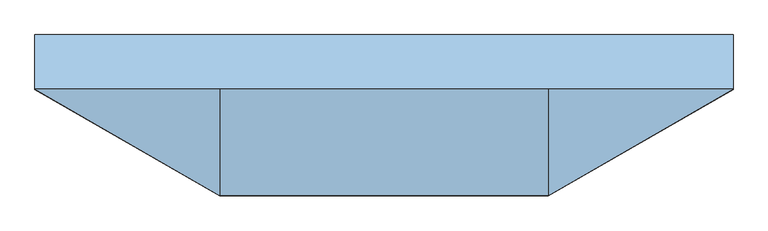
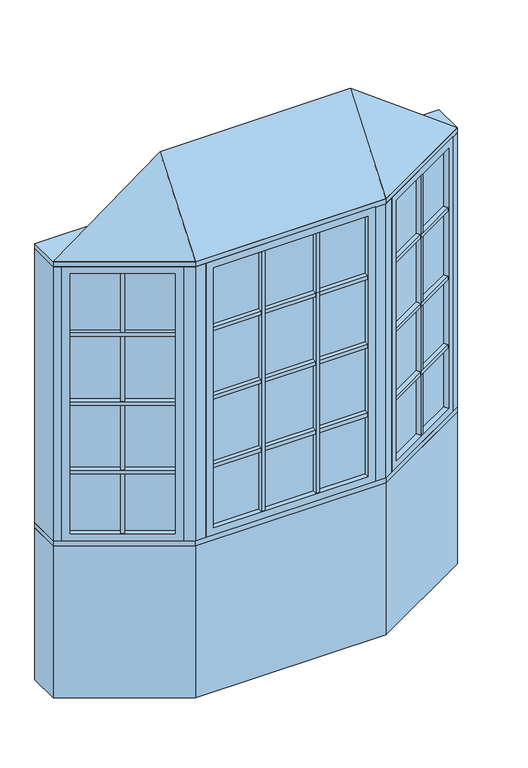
"""IFC4 building model written with IfcOpenShell, lengths in millimetres: window geometry, Pollard_Windows_Tudor Casement Bows and Bays : AML-BAY 30 AFR0614-08-500_GC."""

from ifc_helpers import new_model, si_unit, frame, origin, origin_with_axes, place, context, project, spatial, polyline, outline, extrude, faceted_brep, source, transform, mapped, element, save


def window_7b85a637(model_context):
    return source(origin(), model_context, "Body", "SolidModel", [
        extrude(outline(polyline([(532.2305346, -327.3537343), (521.2305346, -308.3011754), (902.1135794, -88.3982469), (913.1135794, -107.4508058), (532.2305346, -327.3537343)])), frame((0.0, 0.0, 1490.998), z_axis=(0.0, 0.0, 1.0), x_axis=(1.0, 0.0, 0.0)), (0.0, 0.0, 1.0), 18.0),
        extrude(outline(polyline([(518.6905346, -303.9017664), (507.6905346, -284.8492075), (888.5735794, -64.946279), (899.5735794, -83.9988379), (518.6905346, -303.9017664)])), frame((0.0, 0.0, 1490.998), z_axis=(0.0, 0.0, 1.0), x_axis=(1.0, 0.0, 0.0)), (0.0, 0.0, 1.0), 18.0),
        extrude(outline(polyline([(532.2305346, -327.3537343), (521.2305346, -308.3011754), (902.1135794, -88.3982469), (913.1135794, -107.4508058), (532.2305346, -327.3537343)])), frame((0.0, 0.0, 1140.998), z_axis=(0.0, 0.0, 1.0), x_axis=(1.0, 0.0, 0.0)), (0.0, 0.0, 1.0), 18.0),
        extrude(outline(polyline([(518.6905346, -303.9017664), (507.6905346, -284.8492075), (888.5735794, -64.946279), (899.5735794, -83.9988379), (518.6905346, -303.9017664)])), frame((0.0, 0.0, 1140.998), z_axis=(0.0, 0.0, 1.0), x_axis=(1.0, 0.0, 0.0)), (0.0, 0.0, 1.0), 18.0),
        extrude(outline(polyline([(532.2305346, -327.3537343), (521.2305346, -308.3011754), (902.1135794, -88.3982469), (913.1135794, -107.4508058), (532.2305346, -327.3537343)])), frame((0.0, 0.0, 1490.998), z_axis=(0.0, 0.0, 1.0), x_axis=(1.0, 0.0, 0.0)), (0.0, 0.0, 1.0), 18.0),
        extrude(outline(polyline([(518.6905346, -303.9017664), (507.6905346, -284.8492075), (888.5735794, -64.946279), (899.5735794, -83.9988379), (518.6905346, -303.9017664)])), frame((0.0, 0.0, 1490.998), z_axis=(0.0, 0.0, 1.0), x_axis=(1.0, 0.0, 0.0)), (0.0, 0.0, 1.0), 18.0),
        extrude(outline(polyline([(532.2305346, -327.3537343), (521.2305346, -308.3011754), (902.1135794, -88.3982469), (913.1135794, -107.4508058), (532.2305346, -327.3537343)])), frame((0.0, 0.0, 1490.998), z_axis=(0.0, 0.0, 1.0), x_axis=(1.0, 0.0, 0.0)), (0.0, 0.0, 1.0), 18.0),
        extrude(outline(polyline([(518.6905346, -303.9017664), (507.6905346, -284.8492075), (888.5735794, -64.946279), (899.5735794, -83.9988379), (518.6905346, -303.9017664)])), frame((0.0, 0.0, 1490.998), z_axis=(0.0, 0.0, 1.0), x_axis=(1.0, 0.0, 0.0)), (0.0, 0.0, 1.0), 18.0),
        extrude(outline(polyline([(532.2305346, -327.3537343), (521.2305346, -308.3011754), (902.1135794, -88.3982469), (913.1135794, -107.4508058), (532.2305346, -327.3537343)])), frame((0.0, 0.0, 1840.998), z_axis=(0.0, 0.0, 1.0), x_axis=(1.0, 0.0, 0.0)), (0.0, 0.0, 1.0), 18.0),
        extrude(outline(polyline([(518.6905346, -303.9017664), (507.6905346, -284.8492075), (888.5735794, -64.946279), (899.5735794, -83.9988379), (518.6905346, -303.9017664)])), frame((0.0, 0.0, 1840.998), z_axis=(0.0, 0.0, 1.0), x_axis=(1.0, 0.0, 0.0)), (0.0, 0.0, 1.0), 18.0),
        extrude(outline(polyline([(719.4662856, -193.8497112), (730.4662856, -212.9022701), (714.8778284, -221.9022701), (703.8778284, -202.8497112), (719.4662856, -193.8497112)])), frame((0.0, 0.0, 835.8628), z_axis=(0.0, 0.0, 1.0), x_axis=(1.0, 0.0, 0.0)), (0.0, 0.0, 1.0), 1328.2704),
        extrude(outline(polyline([(716.9262856, -189.4503021), (701.3378284, -198.4503021), (690.3378284, -179.3977432), (705.9262856, -170.3977432), (716.9262856, -189.4503021)])), frame((0.0, 0.0, 835.8628), z_axis=(0.0, 0.0, 1.0), x_axis=(1.0, 0.0, 0.0)), (0.0, 0.0, 1.0), 1328.2704),
        extrude(outline(polyline([(913.112102, -82.0482469), (510.2320119, -314.6511754), (507.6920119, -310.2517664), (910.572102, -77.6488379), (913.112102, -82.0482469)])), frame((0.0, 0.0, 823.1628), z_axis=(0.0, 0.0, 1.0), x_axis=(1.0, 0.0, 0.0)), (0.0, 0.0, 1.0), 1353.6704),
        faceted_brep([(902.1135794, -88.3982469, 835.8628), (914.8135794, -110.3952922, 835.8628), (914.8135794, -110.3952922, 2164.1332), (902.1135794, -88.3982469, 2164.1332), (910.572102, -77.6488379, 823.1628), (913.112102, -82.0482469, 823.1628), (913.112102, -82.0482469, 2176.8332), (910.572102, -77.6488379, 2176.8332), (886.8735794, -62.0017926, 835.8628), (899.5735794, -83.9988379, 835.8628), (899.5735794, -83.9988379, 2164.1332), (886.8735794, -62.0017926, 2164.1332), (945.8734073, -92.4628922, 799.998), (917.9334073, -44.0693926, 799.998), (917.9334073, -44.0693926, 2199.998), (945.8734073, -92.4628922, 2199.998), (533.9305346, -330.2982207, 2164.1332), (521.2305346, -308.3011754, 2164.1332), (510.2320119, -314.6511754, 2176.8332), (507.6920119, -310.2517664, 2176.8332), (518.6905346, -303.9017664, 2164.1332), (505.9905346, -281.9047211, 2164.1332), (474.9307067, -299.8371211, 2199.998), (502.8707067, -348.2306207, 2199.998), (533.9305346, -330.2982207, 835.8628), (521.2305346, -308.3011754, 835.8628), (510.2320119, -314.6511754, 823.1628), (507.6920119, -310.2517664, 823.1628), (518.6905346, -303.9017664, 835.8628), (505.9905346, -281.9047211, 835.8628), (474.9307067, -299.8371211, 799.998), (502.8707067, -348.2306207, 799.998)], [[[0, 1, 2, 3]], [[4, 5, 6, 7]], [[8, 9, 10, 11]], [[12, 13, 14, 15]], [[3, 2, 16, 17]], [[7, 6, 18, 19]], [[11, 10, 20, 21]], [[15, 14, 22, 23]], [[17, 16, 24, 25]], [[19, 18, 26, 27]], [[21, 20, 28, 29]], [[23, 22, 30, 31]], [[25, 24, 1, 0]], [[5, 26, 18, 6], [3, 17, 25, 0]], [[27, 26, 5, 4]], [[7, 19, 27, 4], [9, 28, 20, 10]], [[29, 28, 9, 8]], [[13, 30, 22, 14], [11, 21, 29, 8]], [[31, 30, 13, 12]], [[15, 23, 31, 12], [1, 24, 16, 2]]]),
        extrude(outline(polyline([(140.8016788, -347.8306207), (140.8016788, -369.8306207), (122.8016788, -369.8306207), (122.8016788, -347.8306207), (140.8016788, -347.8306207)])), frame((0.0, 0.0, 835.8628), z_axis=(0.0, 0.0, 1.0), x_axis=(1.0, 0.0, 0.0)), (0.0, 0.0, 1.0), 1328.2704),
        extrude(outline(polyline([(140.8016788, -342.7506207), (122.8016788, -342.7506207), (122.8016788, -320.7506207), (140.8016788, -320.7506207), (140.8016788, -342.7506207)])), frame((0.0, 0.0, 835.8628), z_axis=(0.0, 0.0, 1.0), x_axis=(1.0, 0.0, 0.0)), (0.0, 0.0, 1.0), 1328.2704),
        extrude(outline(polyline([(-122.8016788, -347.8306207), (-122.8016788, -369.8306207), (-140.8016788, -369.8306207), (-140.8016788, -347.8306207), (-122.8016788, -347.8306207)])), frame((0.0, 0.0, 835.8628), z_axis=(0.0, 0.0, 1.0), x_axis=(1.0, 0.0, 0.0)), (0.0, 0.0, 1.0), 1328.2704),
        extrude(outline(polyline([(-122.8016788, -342.7506207), (-140.8016788, -342.7506207), (-140.8016788, -320.7506207), (-122.8016788, -320.7506207), (-122.8016788, -342.7506207)])), frame((0.0, 0.0, 835.8628), z_axis=(0.0, 0.0, 1.0), x_axis=(1.0, 0.0, 0.0)), (0.0, 0.0, 1.0), 1328.2704),
        extrude(outline(polyline([(-373.7046365, -369.8306207), (-373.7046365, -347.8306207), (373.7046365, -347.8306207), (373.7046365, -369.8306207), (-373.7046365, -369.8306207)])), frame((0.0, 0.0, 1140.998), z_axis=(0.0, 0.0, 1.0), x_axis=(1.0, 0.0, 0.0)), (0.0, 0.0, 1.0), 18.0),
        extrude(outline(polyline([(-373.7046365, -342.7506207), (-373.7046365, -320.7506207), (373.7046365, -320.7506207), (373.7046365, -342.7506207), (-373.7046365, -342.7506207)])), frame((0.0, 0.0, 1140.998), z_axis=(0.0, 0.0, 1.0), x_axis=(1.0, 0.0, 0.0)), (0.0, 0.0, 1.0), 18.0),
        extrude(outline(polyline([(-373.7046365, -369.8306207), (-373.7046365, -347.8306207), (373.7046365, -347.8306207), (373.7046365, -369.8306207), (-373.7046365, -369.8306207)])), frame((0.0, 0.0, 1490.998), z_axis=(0.0, 0.0, 1.0), x_axis=(1.0, 0.0, 0.0)), (0.0, 0.0, 1.0), 18.0),
        extrude(outline(polyline([(-373.7046365, -342.7506207), (-373.7046365, -320.7506207), (373.7046365, -320.7506207), (373.7046365, -342.7506207), (-373.7046365, -342.7506207)])), frame((0.0, 0.0, 1490.998), z_axis=(0.0, 0.0, 1.0), x_axis=(1.0, 0.0, 0.0)), (0.0, 0.0, 1.0), 18.0),
        extrude(outline(polyline([(-373.7046365, -369.8306207), (-373.7046365, -347.8306207), (373.7046365, -347.8306207), (373.7046365, -369.8306207), (-373.7046365, -369.8306207)])), frame((0.0, 0.0, 1490.998), z_axis=(0.0, 0.0, 1.0), x_axis=(1.0, 0.0, 0.0)), (0.0, 0.0, 1.0), 18.0),
        extrude(outline(polyline([(-373.7046365, -342.7506207), (-373.7046365, -320.7506207), (373.7046365, -320.7506207), (373.7046365, -342.7506207), (-373.7046365, -342.7506207)])), frame((0.0, 0.0, 1490.998), z_axis=(0.0, 0.0, 1.0), x_axis=(1.0, 0.0, 0.0)), (0.0, 0.0, 1.0), 18.0),
        extrude(outline(polyline([(-373.7046365, -369.8306207), (-373.7046365, -347.8306207), (373.7046365, -347.8306207), (373.7046365, -369.8306207), (-373.7046365, -369.8306207)])), frame((0.0, 0.0, 1490.998), z_axis=(0.0, 0.0, 1.0), x_axis=(1.0, 0.0, 0.0)), (0.0, 0.0, 1.0), 18.0),
        extrude(outline(polyline([(-373.7046365, -342.7506207), (-373.7046365, -320.7506207), (373.7046365, -320.7506207), (373.7046365, -342.7506207), (-373.7046365, -342.7506207)])), frame((0.0, 0.0, 1490.998), z_axis=(0.0, 0.0, 1.0), x_axis=(1.0, 0.0, 0.0)), (0.0, 0.0, 1.0), 18.0),
        extrude(outline(polyline([(-913.1135794, -107.4508058), (-902.1135794, -88.3982469), (-521.2305346, -308.3011754), (-532.2305346, -327.3537343), (-913.1135794, -107.4508058)])), frame((0.0, 0.0, 1140.998), z_axis=(0.0, 0.0, 1.0), x_axis=(1.0, 0.0, 0.0)), (0.0, 0.0, 1.0), 18.0),
        extrude(outline(polyline([(-899.5735794, -83.9988379), (-888.5735794, -64.946279), (-507.6905346, -284.8492075), (-518.6905346, -303.9017664), (-899.5735794, -83.9988379)])), frame((0.0, 0.0, 1140.998), z_axis=(0.0, 0.0, 1.0), x_axis=(1.0, 0.0, 0.0)), (0.0, 0.0, 1.0), 18.0),
        extrude(outline(polyline([(-913.1135794, -107.4508058), (-902.1135794, -88.3982469), (-521.2305346, -308.3011754), (-532.2305346, -327.3537343), (-913.1135794, -107.4508058)])), frame((0.0, 0.0, 1490.998), z_axis=(0.0, 0.0, 1.0), x_axis=(1.0, 0.0, 0.0)), (0.0, 0.0, 1.0), 18.0),
        extrude(outline(polyline([(-899.5735794, -83.9988379), (-888.5735794, -64.946279), (-507.6905346, -284.8492075), (-518.6905346, -303.9017664), (-899.5735794, -83.9988379)])), frame((0.0, 0.0, 1490.998), z_axis=(0.0, 0.0, 1.0), x_axis=(1.0, 0.0, 0.0)), (0.0, 0.0, 1.0), 18.0),
        extrude(outline(polyline([(-913.1135794, -107.4508058), (-902.1135794, -88.3982469), (-521.2305346, -308.3011754), (-532.2305346, -327.3537343), (-913.1135794, -107.4508058)])), frame((0.0, 0.0, 1490.998), z_axis=(0.0, 0.0, 1.0), x_axis=(1.0, 0.0, 0.0)), (0.0, 0.0, 1.0), 18.0),
        extrude(outline(polyline([(-899.5735794, -83.9988379), (-888.5735794, -64.946279), (-507.6905346, -284.8492075), (-518.6905346, -303.9017664), (-899.5735794, -83.9988379)])), frame((0.0, 0.0, 1490.998), z_axis=(0.0, 0.0, 1.0), x_axis=(1.0, 0.0, 0.0)), (0.0, 0.0, 1.0), 18.0),
        extrude(outline(polyline([(-913.1135794, -107.4508058), (-902.1135794, -88.3982469), (-521.2305346, -308.3011754), (-532.2305346, -327.3537343), (-913.1135794, -107.4508058)])), frame((0.0, 0.0, 1490.998), z_axis=(0.0, 0.0, 1.0), x_axis=(1.0, 0.0, 0.0)), (0.0, 0.0, 1.0), 18.0),
        extrude(outline(polyline([(-899.5735794, -83.9988379), (-888.5735794, -64.946279), (-507.6905346, -284.8492075), (-518.6905346, -303.9017664), (-899.5735794, -83.9988379)])), frame((0.0, 0.0, 1490.998), z_axis=(0.0, 0.0, 1.0), x_axis=(1.0, 0.0, 0.0)), (0.0, 0.0, 1.0), 18.0),
        extrude(outline(polyline([(-913.1135794, -107.4508058), (-902.1135794, -88.3982469), (-521.2305346, -308.3011754), (-532.2305346, -327.3537343), (-913.1135794, -107.4508058)])), frame((0.0, 0.0, 1840.998), z_axis=(0.0, 0.0, 1.0), x_axis=(1.0, 0.0, 0.0)), (0.0, 0.0, 1.0), 18.0),
        extrude(outline(polyline([(-899.5735794, -83.9988379), (-888.5735794, -64.946279), (-507.6905346, -284.8492075), (-518.6905346, -303.9017664), (-899.5735794, -83.9988379)])), frame((0.0, 0.0, 1840.998), z_axis=(0.0, 0.0, 1.0), x_axis=(1.0, 0.0, 0.0)), (0.0, 0.0, 1.0), 18.0),
        extrude(outline(polyline([(-373.7046365, -369.8306207), (-373.7046365, -347.8306207), (373.7046365, -347.8306207), (373.7046365, -369.8306207), (-373.7046365, -369.8306207)])), frame((0.0, 0.0, 1840.998), z_axis=(0.0, 0.0, 1.0), x_axis=(1.0, 0.0, 0.0)), (0.0, 0.0, 1.0), 18.0),
        extrude(outline(polyline([(-373.7046365, -342.7506207), (-373.7046365, -320.7506207), (373.7046365, -320.7506207), (373.7046365, -342.7506207), (-373.7046365, -342.7506207)])), frame((0.0, 0.0, 1840.998), z_axis=(0.0, 0.0, 1.0), x_axis=(1.0, 0.0, 0.0)), (0.0, 0.0, 1.0), 18.0),
        extrude(outline(polyline([(-703.8778284, -202.8497112), (-714.8778284, -221.9022701), (-730.4662856, -212.9022701), (-719.4662856, -193.8497112), (-703.8778284, -202.8497112)])), frame((0.0, 0.0, 835.8628), z_axis=(0.0, 0.0, 1.0), x_axis=(1.0, 0.0, 0.0)), (0.0, 0.0, 1.0), 1328.2704),
        extrude(outline(polyline([(-701.3378284, -198.4503021), (-716.9262856, -189.4503021), (-705.9262856, -170.3977432), (-690.3378284, -179.3977432), (-701.3378284, -198.4503021)])), frame((0.0, 0.0, 835.8628), z_axis=(0.0, 0.0, 1.0), x_axis=(1.0, 0.0, 0.0)), (0.0, 0.0, 1.0), 1328.2704),
        extrude(outline(polyline([(-510.2320119, -314.6511754), (-913.112102, -82.0482469), (-910.572102, -77.6488379), (-507.6920119, -310.2517664), (-510.2320119, -314.6511754)])), frame((0.0, 0.0, 823.1628), z_axis=(0.0, 0.0, 1.0), x_axis=(1.0, 0.0, 0.0)), (0.0, 0.0, 1.0), 1353.6704),
        faceted_brep([(-518.6905346, -303.9017664, 2164.1332), (-505.9905346, -281.9047211, 2164.1332), (-505.9905346, -281.9047211, 835.8628), (-518.6905346, -303.9017664, 835.8628), (-510.2320119, -314.6511754, 2176.8332), (-507.6920119, -310.2517664, 2176.8332), (-507.6920119, -310.2517664, 823.1628), (-510.2320119, -314.6511754, 823.1628), (-533.9305346, -330.2982207, 2164.1332), (-521.2305346, -308.3011754, 2164.1332), (-521.2305346, -308.3011754, 835.8628), (-533.9305346, -330.2982207, 835.8628), (-474.9307067, -299.8371211, 2199.998), (-502.8707067, -348.2306207, 2199.998), (-502.8707067, -348.2306207, 799.998), (-474.9307067, -299.8371211, 799.998), (-886.8735794, -62.0017926, 835.8628), (-899.5735794, -83.9988379, 835.8628), (-910.572102, -77.6488379, 823.1628), (-913.112102, -82.0482469, 823.1628), (-902.1135794, -88.3982469, 835.8628), (-914.8135794, -110.3952922, 835.8628), (-945.8734073, -92.4628922, 799.998), (-917.9334073, -44.0693926, 799.998), (-886.8735794, -62.0017926, 2164.1332), (-899.5735794, -83.9988379, 2164.1332), (-910.572102, -77.6488379, 2176.8332), (-913.112102, -82.0482469, 2176.8332), (-902.1135794, -88.3982469, 2164.1332), (-914.8135794, -110.3952922, 2164.1332), (-945.8734073, -92.4628922, 2199.998), (-917.9334073, -44.0693926, 2199.998)], [[[0, 1, 2, 3]], [[4, 5, 6, 7]], [[8, 9, 10, 11]], [[12, 13, 14, 15]], [[3, 2, 16, 17]], [[7, 6, 18, 19]], [[11, 10, 20, 21]], [[15, 14, 22, 23]], [[17, 16, 24, 25]], [[19, 18, 26, 27]], [[21, 20, 28, 29]], [[23, 22, 30, 31]], [[15, 23, 31, 12], [1, 24, 16, 2]], [[25, 24, 1, 0]], [[5, 26, 18, 6], [3, 17, 25, 0]], [[27, 26, 5, 4]], [[7, 19, 27, 4], [9, 28, 20, 10]], [[29, 28, 9, 8]], [[13, 30, 22, 14], [11, 21, 29, 8]], [[31, 30, 13, 12]]]),
        extrude(outline(polyline([(386.4046365, -347.8306207), (-386.4046365, -347.8306207), (-386.4046365, -342.7506207), (386.4046365, -342.7506207), (386.4046365, -347.8306207)])), frame((0.0, 0.0, 823.1628), z_axis=(0.0, 0.0, 1.0), x_axis=(1.0, 0.0, 0.0)), (0.0, 0.0, 1.0), 1353.6704),
        faceted_brep([(373.7046365, -347.8306207, 835.8628), (373.7046365, -373.2306207, 835.8628), (373.7046365, -373.2306207, 2164.1332), (373.7046365, -347.8306207, 2164.1332), (386.4046365, -342.7506207, 823.1628), (386.4046365, -347.8306207, 823.1628), (386.4046365, -347.8306207, 2176.8332), (386.4046365, -342.7506207, 2176.8332), (373.7046365, -317.3506207, 835.8628), (373.7046365, -342.7506207, 835.8628), (373.7046365, -342.7506207, 2164.1332), (373.7046365, -317.3506207, 2164.1332), (409.5694365, -373.2306207, 799.998), (409.5694365, -317.3506207, 799.998), (409.5694365, -317.3506207, 2199.998), (409.5694365, -373.2306207, 2199.998), (-373.7046365, -373.2306207, 2164.1332), (-373.7046365, -347.8306207, 2164.1332), (-386.4046365, -347.8306207, 2176.8332), (-386.4046365, -342.7506207, 2176.8332), (-373.7046365, -342.7506207, 2164.1332), (-373.7046365, -317.3506207, 2164.1332), (-409.5694365, -317.3506207, 2199.998), (-409.5694365, -373.2306207, 2199.998), (-373.7046365, -373.2306207, 835.8628), (-373.7046365, -347.8306207, 835.8628), (-386.4046365, -347.8306207, 823.1628), (-386.4046365, -342.7506207, 823.1628), (-373.7046365, -342.7506207, 835.8628), (-373.7046365, -317.3506207, 835.8628), (-409.5694365, -317.3506207, 799.998), (-409.5694365, -373.2306207, 799.998)], [[[0, 1, 2, 3]], [[4, 5, 6, 7]], [[8, 9, 10, 11]], [[12, 13, 14, 15]], [[3, 2, 16, 17]], [[7, 6, 18, 19]], [[11, 10, 20, 21]], [[15, 14, 22, 23]], [[17, 16, 24, 25]], [[19, 18, 26, 27]], [[21, 20, 28, 29]], [[23, 22, 30, 31]], [[15, 23, 31, 12], [1, 24, 16, 2]], [[25, 24, 1, 0]], [[5, 26, 18, 6], [3, 17, 25, 0]], [[27, 26, 5, 4]], [[7, 19, 27, 4], [9, 28, 20, 10]], [[29, 28, 9, 8]], [[13, 30, 22, 14], [11, 21, 29, 8]], [[31, 30, 13, 12]]]),
        faceted_brep([(976.5, -74.7806207, 2225.398), (459.5694365, -373.2306207, 2225.398), (-459.5694365, -373.2306207, 2225.398), (-976.5, -74.7806207, 2225.398), (-459.5694365, -74.7806207, 2606.398), (459.5694365, -74.7806207, 2606.398)], [[[0, 1, 2, 3]], [[3, 2, 4]], [[2, 1, 5, 4]], [[1, 0, 5]], [[0, 3, 4, 5]]]),
        extrude(outline(polyline([(-976.5, 77.6193793), (976.5, 77.6193793), (976.5, -74.7806207), (459.5694365, -373.2306207), (-459.5694365, -373.2306207), (-976.5, -74.7806207), (-976.5, 77.6193793)])), frame((0.0, 0.0, 2199.998), z_axis=(0.0, 0.0, 1.0), x_axis=(1.0, 0.0, 0.0)), (0.0, 0.0, 1.0), 25.4),
        extrude(outline(polyline([(-976.5, -74.7806207), (-976.5, 77.6193793), (-935.6645431, 77.6193793), (-935.6645431, -74.7806207), (-945.8734073, -92.4628922), (-976.5, -74.7806207)])), frame((0.0, 0.0, 799.998), z_axis=(0.0, 0.0, 1.0), x_axis=(1.0, 0.0, 0.0)), (0.0, 0.0, 1.0), 1400.0),
        extrude(outline(polyline([(976.5, 77.6193793), (976.5, -74.7806207), (945.8734073, -92.4628922), (935.6645431, -74.7806207), (935.6645431, 77.6193793), (976.5, 77.6193793)])), frame((0.0, 0.0, 799.998), z_axis=(0.0, 0.0, 1.0), x_axis=(1.0, 0.0, 0.0)), (0.0, 0.0, 1.0), 1400.0),
        extrude(outline(polyline([(459.5694365, -373.2306207), (409.5694365, -373.2306207), (409.5694365, -323.2306207), (446.1719769, -323.2306207), (477.8707067, -304.9293505), (502.8707067, -348.2306207), (459.5694365, -373.2306207)])), frame((0.0, 0.0, 799.998), z_axis=(0.0, 0.0, 1.0), x_axis=(1.0, 0.0, 0.0)), (0.0, 0.0, 1.0), 1400.0),
        extrude(outline(polyline([(-459.5694365, -373.2306207), (-502.8707067, -348.2306207), (-477.8707067, -304.9293505), (-446.1719769, -323.2306207), (-409.5694365, -323.2306207), (-409.5694365, -373.2306207), (-459.5694365, -373.2306207)])), frame((0.0, 0.0, 799.998), z_axis=(0.0, 0.0, 1.0), x_axis=(1.0, 0.0, 0.0)), (0.0, 0.0, 1.0), 1400.0),
        extrude(outline(polyline([(-459.5694365, -373.2306207), (-976.5, -74.7806207), (-976.5, 77.6193793), (-935.6645431, 77.6193793), (-418.7339796, -220.8306207), (418.7339796, -220.8306207), (935.6645431, 77.6193793), (976.5, 77.6193793), (976.5, -74.7806207), (459.5694365, -373.2306207), (-459.5694365, -373.2306207)])), frame((0.0, 0.0, 774.598), z_axis=(0.0, 0.0, 1.0), x_axis=(1.0, 0.0, 0.0)), (0.0, 0.0, 1.0), 25.4),
        extrude(outline(polyline([(-976.5, -74.7806207), (-976.5, 77.6193793), (-935.6645431, 77.6193793), (-418.7339796, -220.8306207), (418.7339796, -220.8306207), (935.6645431, 77.6193793), (976.5, 77.6193793), (976.5, -74.7806207), (459.5694365, -373.2306207), (-459.5694365, -373.2306207), (-976.5, -74.7806207)])), origin_with_axes(), (0.0, 0.0, 1.0), 774.598),
    ])


if __name__ == "__main__":
    model = new_model("IFC4")
    model_context = context("Model", 3, world=origin())
    ifc_project = project(units=[si_unit("LENGTHUNIT", "METRE", prefix="MILLI")], contexts=[model_context])
    site = spatial("IfcSite", under=ifc_project)
    building = spatial("IfcBuilding", under=site)
    placement = place(None, origin())
    window_shape = window_7b85a637(model_context)
    element("IfcWindow", 1, ObjectType="Pollard_Windows_Tudor Casement Bows and Bays : AML-BAY 30 AFR0614-08-500_GC", at=placement, inside=building, context=model_context, shape_type="MappedRepresentation", body=[
        mapped(window_shape, transform((0.0, 0.0, 0.0), x_axis=(1.0, 0.0, 0.0), y_axis=(0.0, 1.0, 0.0), z_axis=(0.0, 0.0, 1.0))),
    ])
    save(model, "model.ifc")
